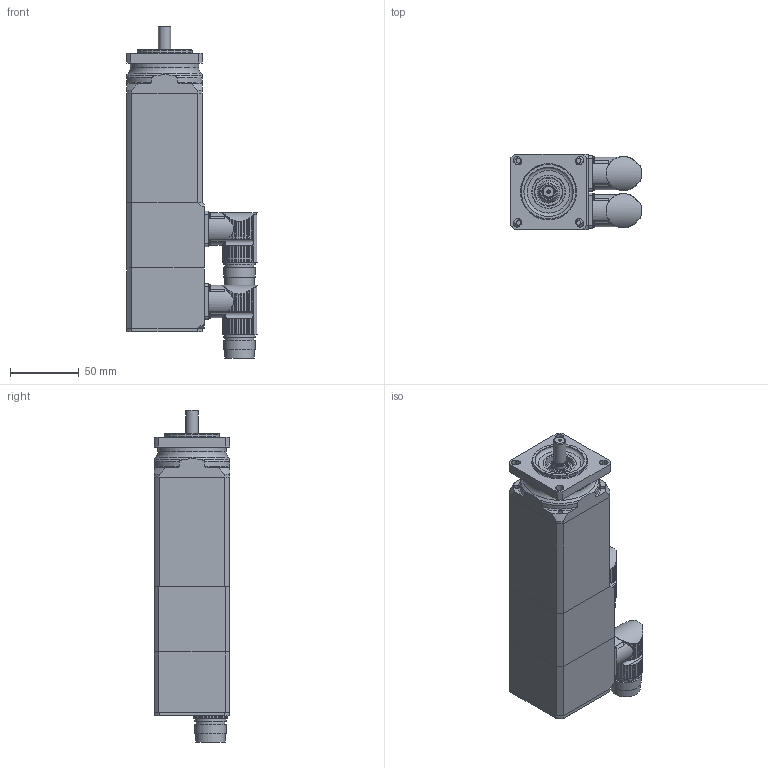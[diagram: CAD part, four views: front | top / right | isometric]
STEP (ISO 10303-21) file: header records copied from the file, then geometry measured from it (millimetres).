
FILE_DESCRIPTION(/* description */ (''),/* implementation_level */ '2;1');
FILE_NAME(/* name */ 'MR 7414-Ux-Nxxx-G01-A0D-MS',/* time_stamp */ '2007-07-13T09:50:00+01:00',/* author */ (''),/* organization */ ('ESR Pollmeier GmbH'),/* preprocessor_version */ 'ST-DEVELOPER v8',/* originating_system */ 'UNIGRAPHICS SOLUTIONS - UNIGRAPHICS 18.0',/* authorisation */ '');
FILE_SCHEMA (('AUTOMOTIVE_DESIGN { 1 2 10303 214 0 1 1 1 }'));
Length unit declared in the file: millimetre
Products named in the file (12): Gehaeuse_SY1_80_0; iso2009-m3x8_A; 064224_0; 064231_0; 111003_2; Rotor_SY1_0; 111001_0; iso1580-m2.5x6_A; 014257_0; 014250_0; DIN3760_org_A10x24x7_0; MR7414-Ux-Nxxx-G01-A0D-MS_0
Assembly tree (21 placements, depth 2):
  MR7414-Ux-Nxxx-G01-A0D-MS_0
    DIN3760_org_A10x24x7_0
    014250_0
    014257_0
    iso1580-m2.5x6_A  x8
    111001_0
    Rotor_SY1_0
    111003_2
    064231_0
    064224_0
    iso2009-m3x8_A  x4
    Gehaeuse_SY1_80_0
Bounding box: 94.99 x 55 x 242.15 mm (x, y, z)
Volume: 282476.6 mm3; surface area: 143015.4 mm2
Topology: 21 solids, 21 shells, 873 faces, 2328 edges, 1526 vertices
Faces by surface type: cylinder 499, plane 227, cone 82, torus 40, sphere 20, bspline 5
Full cylindrical faces by diameter (mm): 1 x16, 1.5 x1, 1.948 x8, 2 x4, 2.135 x8, 2.459 x15, 2.5 x8, 2.7 x8, 3 x4, 3.3 x3, 3.4 x3, 3.432 x4, 3.5 x4, 4 x1, 4.5 x5, 6 x7, 6.5 x4, 8 x4, 8.52 x1, 9 x1, 10 x2, 10.3 x1, 10.5 x1, 15 x1, 18 x4, 20 x5, 21 x3, 21.5 x2, 22 x1, 23 x5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
Entity records: 23807 total; most frequent: CARTESIAN_POINT 5847, DIRECTION 3651, ORIENTED_EDGE 3388, EDGE_CURVE 1694, AXIS2_PLACEMENT_3D 1557, VERTEX_POINT 1241, EDGE_LOOP 1123, CIRCLE 787
